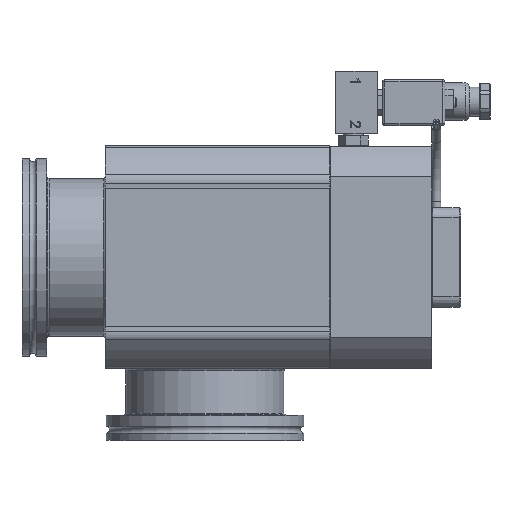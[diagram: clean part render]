
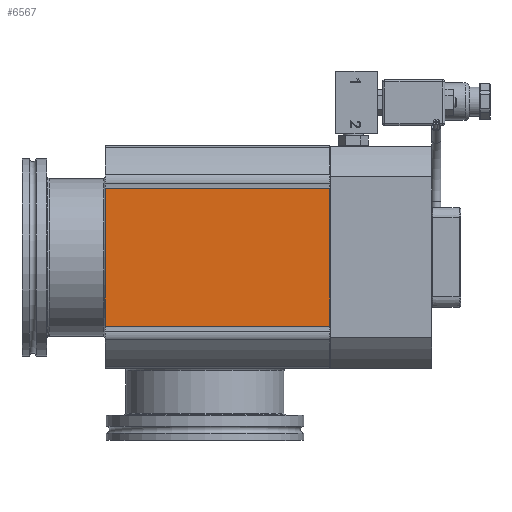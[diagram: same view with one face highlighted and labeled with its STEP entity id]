
A CAD part, top view. The second image highlights one B-rep face of the part: STEP entity #6567.
In plain terms, the highlighted planar face has unit normal (0, 0, 1) as drawn and (1, 0, 0) by its records, which use the part's own axes.
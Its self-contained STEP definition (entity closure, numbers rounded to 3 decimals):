
#4244=LINE('',#24460,#5160);
#4245=LINE('',#24505,#5161);
#4248=LINE('',#24512,#5164);
#4268=LINE('',#24580,#5184);
#5160=VECTOR('',#19088,1.);
#5161=VECTOR('',#19141,1.);
#5164=VECTOR('',#19148,1.);
#5184=VECTOR('',#19230,1.);
#6567=ADVANCED_FACE('',(#7494),#6993,.F.);
#6993=PLANE('',#15991);
#7494=FACE_OUTER_BOUND('',#8416,.T.);
#8416=EDGE_LOOP('',(#11522,#11523,#11524,#11525));
#11522=ORIENTED_EDGE('',*,*,#14327,.F.);
#11523=ORIENTED_EDGE('',*,*,#14293,.T.);
#11524=ORIENTED_EDGE('',*,*,#14271,.F.);
#11525=ORIENTED_EDGE('',*,*,#14289,.T.);
#12713=VERTEX_POINT('',#24459);
#12714=VERTEX_POINT('',#24461);
#12730=VERTEX_POINT('',#24503);
#12733=VERTEX_POINT('',#24510);
#14271=EDGE_CURVE('',#12713,#12714,#4244,.T.);
#14289=EDGE_CURVE('',#12713,#12730,#4245,.T.);
#14293=EDGE_CURVE('',#12733,#12714,#4248,.T.);
#14327=EDGE_CURVE('',#12733,#12730,#4268,.T.);
#15991=AXIS2_PLACEMENT_3D('',#24581,#19231,#19232);
#19088=DIRECTION('',(0.,0.,-1.));
#19141=DIRECTION('',(0.,-1.,0.));
#19148=DIRECTION('',(0.,1.,0.));
#19230=DIRECTION('',(0.,0.,1.));
#19231=DIRECTION('',(-1.,0.,0.));
#19232=DIRECTION('',(0.,0.,1.));
#24459=CARTESIAN_POINT('',(53.5,148.,33.11));
#24460=CARTESIAN_POINT('',(53.5,148.,34.742));
#24461=CARTESIAN_POINT('',(53.5,148.,-33.11));
#24503=CARTESIAN_POINT('',(53.5,40.,33.11));
#24505=CARTESIAN_POINT('',(53.5,0.,33.11));
#24510=CARTESIAN_POINT('',(53.5,40.,-33.11));
#24512=CARTESIAN_POINT('',(53.5,157.,-33.11));
#24580=CARTESIAN_POINT('',(53.5,40.,34.742));
#24581=CARTESIAN_POINT('',(53.5,157.,34.742));
